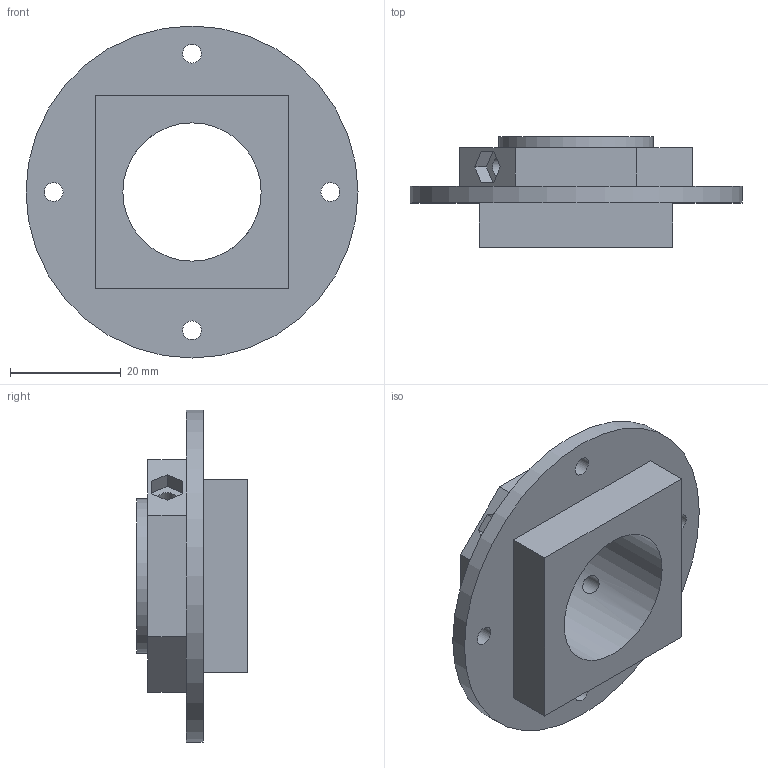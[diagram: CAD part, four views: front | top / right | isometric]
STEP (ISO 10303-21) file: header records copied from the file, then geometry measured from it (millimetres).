
FILE_DESCRIPTION(/* description */ (''),/* implementation_level */ '2;1');
FILE_NAME(/* name */ 'blocco_quadrato.stp',/* time_stamp */ '2025-06-05T08:10:02+02:00',/* author */ ('R5800u'),/* organization */ (''),/* preprocessor_version */ 'ST-DEVELOPER v20',/* originating_system */ 'Autodesk Inventor 2025',/* authorisation */ '');
FILE_SCHEMA (('AUTOMOTIVE_DESIGN { 1 0 10303 214 3 1 1 }'));
Length unit declared in the file: millimetre
Products named in the file (1): blocco_quadrato
Bounding box: 60 x 20 x 60 mm (x, y, z)
Volume: 20064.5 mm3; surface area: 9624 mm2
Topology: 1 solids, 1 shells, 45 faces, 108 edges, 72 vertices
Faces by surface type: plane 35, cylinder 10
Full cylindrical faces by diameter (mm): 3.4 x6, 5.5 x1, 25 x1, 28 x1, 60 x1
Entity records: 1433 total; most frequent: CARTESIAN_POINT 292, ORIENTED_EDGE 216, DIRECTION 216, EDGE_CURVE 108, LINE 88, VECTOR 88, VERTEX_POINT 72, EDGE_LOOP 66
